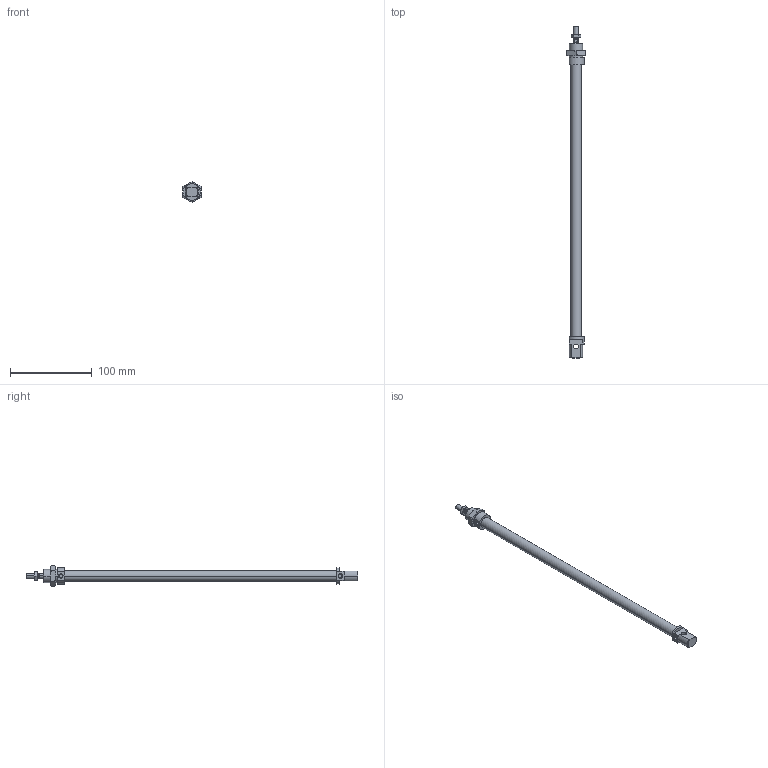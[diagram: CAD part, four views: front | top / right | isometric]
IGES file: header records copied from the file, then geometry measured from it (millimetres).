
Global section: file name: No Iges File Name specified; native system: AutoDesk Inventor R6.0; preprocessor: AutoDesk Inventor Iges Exporter R6.0; author: No Author specified; organization: No Organization specified; date: 20030407.191109; units: millimetre
Bounding box: 22 x 405 x 25.4 mm (x, y, z)
Volume: 58485.7 mm3; surface area: 31955.7 mm2
Topology: 4 solids, 4 shells, 121 faces, 268 edges, 162 vertices
Faces by surface type: plane 39, cone 38, bspline 20, cylinder 18, revolution 6
